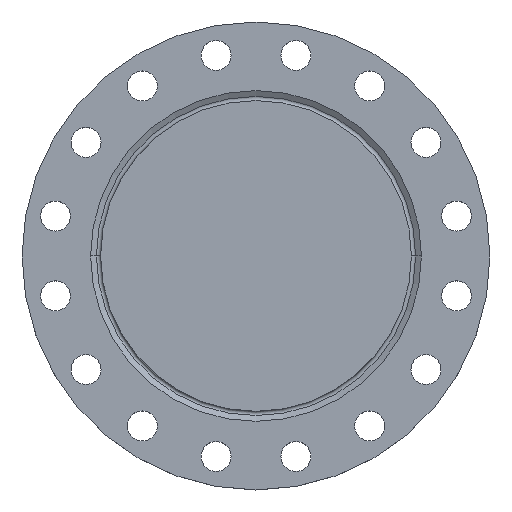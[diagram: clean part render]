
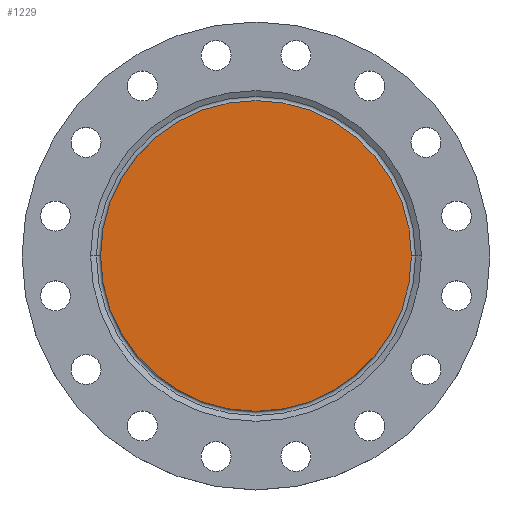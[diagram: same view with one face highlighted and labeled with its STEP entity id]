
A CAD part, top view. The second image highlights one B-rep face of the part: STEP entity #1229.
In plain terms, the highlighted planar face has unit normal (0, 0, 1).
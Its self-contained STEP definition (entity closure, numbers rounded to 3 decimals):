
#41 = ORIENTED_EDGE ( 'NONE', *, *, #740, .F. ) ;
#120 = AXIS2_PLACEMENT_3D ( 'NONE', #372, #883, #1389 ) ;
#291 = DIRECTION ( 'NONE',  ( 0., 0., 1. ) ) ;
#372 = CARTESIAN_POINT ( 'NONE',  ( 0., 0., 0. ) ) ;
#412 = FACE_OUTER_BOUND ( 'NONE', #835, .T. ) ;
#422 = DIRECTION ( 'NONE',  ( -1., 0., 0. ) ) ;
#513 = CARTESIAN_POINT ( 'NONE',  ( 171., 0., 0. ) ) ;
#569 = ORIENTED_EDGE ( 'NONE', *, *, #1093, .F. ) ;
#740 = EDGE_CURVE ( 'NONE', #1089, #1317, #1007, .T. ) ;
#805 = DIRECTION ( 'NONE',  ( 1., 0., 0. ) ) ;
#835 = EDGE_LOOP ( 'NONE', ( #41, #569 ) ) ;
#846 = CIRCLE ( 'NONE', #120, 171. ) ;
#883 = DIRECTION ( 'NONE',  ( 0., 0., -1. ) ) ;
#927 = PLANE ( 'NONE',  #1296 ) ;
#935 = DIRECTION ( 'NONE',  ( 0., 0., -1. ) ) ;
#998 = CARTESIAN_POINT ( 'NONE',  ( -171., 0., 0. ) ) ;
#1007 = CIRCLE ( 'NONE', #1217, 171. ) ;
#1050 = CARTESIAN_POINT ( 'NONE',  ( 0., 0., 0. ) ) ;
#1089 = VERTEX_POINT ( 'NONE', #998 ) ;
#1093 = EDGE_CURVE ( 'NONE', #1317, #1089, #846, .T. ) ;
#1217 = AXIS2_PLACEMENT_3D ( 'NONE', #1050, #935, #422 ) ;
#1229 = ADVANCED_FACE ( 'NONE', ( #412 ), #927, .T. ) ;
#1296 = AXIS2_PLACEMENT_3D ( 'NONE', #1431, #291, #805 ) ;
#1317 = VERTEX_POINT ( 'NONE', #513 ) ;
#1389 = DIRECTION ( 'NONE',  ( -1., 0., 0. ) ) ;
#1431 = CARTESIAN_POINT ( 'NONE',  ( 0., 0., 0. ) ) ;
